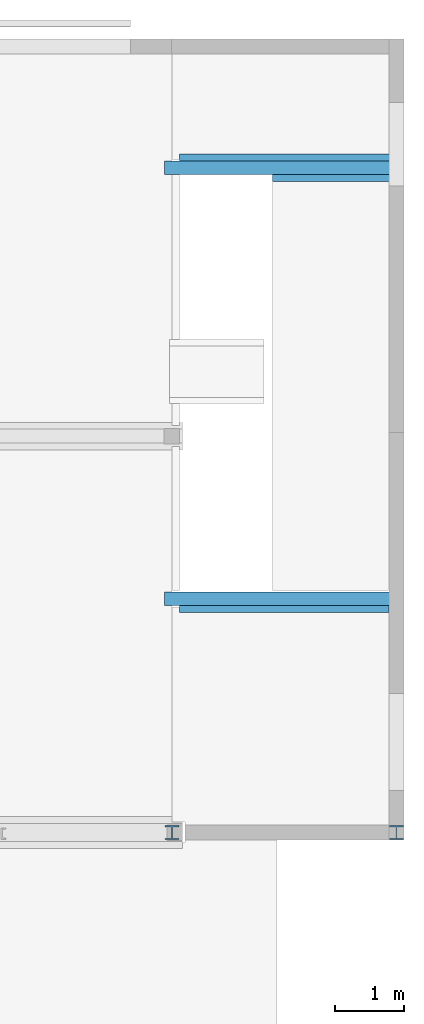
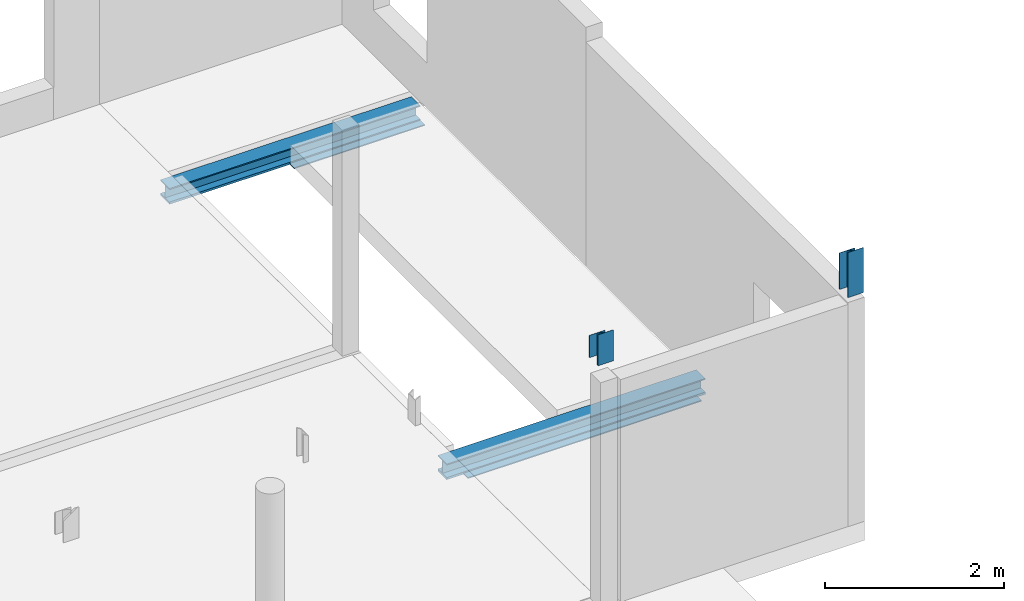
# One storey, part 6 of 6: 2 beams, 2 columns.
"""IFC2X3 building model written with IfcOpenShell, lengths in millimetres."""

from ifc_helpers import new_model, entity, si_unit, converted_unit, derived_unit, direction, frame, origin, place, context, subcontext, project, spatial, faceted_brep, source, transform, mapped, material, type_object, type_shapes, element, save


model = new_model("IFC2X3")

# Units and contexts
model_context = context("Model", 3, precision=0.01, world=origin(), true_north=direction((6.123031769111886e-17, 1.0)))
body_context = subcontext(model_context, "Body", "Model", "MODEL_VIEW")
ifc_project = project(units=[si_unit("LENGTHUNIT", "METRE", prefix="MILLI"), si_unit("AREAUNIT", "SQUARE_METRE", prefix="MILLI"), si_unit("VOLUMEUNIT", "CUBIC_METRE"), converted_unit("PLANEANGLEUNIT", "DEGREE", entity("IfcPlaneAngleMeasure", 0.017453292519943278), si_unit("PLANEANGLEUNIT", "RADIAN"), dimensions=[0, 0, 0, 0, 0, 0, 0]), si_unit("MASSUNIT", "GRAM", prefix="KILO"), derived_unit("MASSDENSITYUNIT", [(si_unit("MASSUNIT", "GRAM", prefix="KILO"), 1), (si_unit("LENGTHUNIT", "METRE"), -3)]), derived_unit("IONCONCENTRATIONUNIT", [(si_unit("MASSUNIT", "GRAM", prefix="KILO"), 1), (si_unit("LENGTHUNIT", "METRE"), -3)]), derived_unit("MOMENTOFINERTIAUNIT", [(si_unit("LENGTHUNIT", "METRE"), 4)]), si_unit("TIMEUNIT", "SECOND"), si_unit("FREQUENCYUNIT", "HERTZ"), si_unit("THERMODYNAMICTEMPERATUREUNIT", "DEGREE_CELSIUS"), derived_unit("THERMALTRANSMITTANCEUNIT", [(si_unit("MASSUNIT", "GRAM", prefix="KILO"), 1), (si_unit("THERMODYNAMICTEMPERATUREUNIT", "KELVIN"), -1), (si_unit("TIMEUNIT", "SECOND"), -3)]), derived_unit("THERMALCONDUCTANCEUNIT", [(si_unit("MASSUNIT", "GRAM", prefix="KILO"), 1), (si_unit("THERMODYNAMICTEMPERATUREUNIT", "KELVIN"), -1), (si_unit("TIMEUNIT", "SECOND"), -3), (si_unit("LENGTHUNIT", "METRE"), 1)]), derived_unit("VOLUMETRICFLOWRATEUNIT", [(si_unit("LENGTHUNIT", "METRE", prefix="DECI"), 3), (si_unit("TIMEUNIT", "SECOND"), -1)]), derived_unit("MASSFLOWRATEUNIT", [(si_unit("MASSUNIT", "GRAM", prefix="KILO"), 1), (si_unit("TIMEUNIT", "SECOND"), -1)]), derived_unit("ROTATIONALFREQUENCYUNIT", [(si_unit("TIMEUNIT", "SECOND"), -1)]), si_unit("ELECTRICCURRENTUNIT", "AMPERE"), si_unit("ELECTRICVOLTAGEUNIT", "VOLT"), si_unit("POWERUNIT", "WATT"), si_unit("FORCEUNIT", "NEWTON", prefix="KILO"), si_unit("ILLUMINANCEUNIT", "LUX"), si_unit("LUMINOUSFLUXUNIT", "LUMEN"), si_unit("LUMINOUSINTENSITYUNIT", "CANDELA"), si_unit("ENERGYUNIT", "JOULE"), derived_unit("USERDEFINED", [(si_unit("MASSUNIT", "GRAM", prefix="KILO"), -1), (si_unit("LENGTHUNIT", "METRE"), -2), (si_unit("TIMEUNIT", "SECOND"), 3), (si_unit("LUMINOUSFLUXUNIT", "LUMEN"), 1)]), derived_unit("USERDEFINED", [(si_unit("MASSUNIT", "GRAM", prefix="KILO"), 1), (si_unit("TIMEUNIT", "SECOND"), -3), (si_unit("LENGTHUNIT", "METRE"), 3), (si_unit("ELECTRICCURRENTUNIT", "AMPERE"), -2)]), derived_unit("SOUNDPOWERUNIT", [(si_unit("MASSUNIT", "GRAM", prefix="KILO"), 1), (si_unit("TIMEUNIT", "SECOND"), -3), (si_unit("LENGTHUNIT", "METRE"), 2)]), derived_unit("SOUNDPRESSUREUNIT", [(si_unit("MASSUNIT", "GRAM", prefix="KILO"), 1), (si_unit("LENGTHUNIT", "METRE"), -1), (si_unit("TIMEUNIT", "SECOND"), -2)]), derived_unit("LINEARVELOCITYUNIT", [(si_unit("LENGTHUNIT", "METRE"), 1), (si_unit("TIMEUNIT", "SECOND"), -1)]), si_unit("PRESSUREUNIT", "PASCAL"), derived_unit("USERDEFINED", [(si_unit("MASSUNIT", "GRAM", prefix="KILO"), 1), (si_unit("LENGTHUNIT", "METRE"), -2), (si_unit("TIMEUNIT", "SECOND"), -2)]), derived_unit("LINEARFORCEUNIT", [(si_unit("MASSUNIT", "GRAM", prefix="KILO"), 1), (si_unit("TIMEUNIT", "SECOND"), -2)]), derived_unit("PLANARFORCEUNIT", [(si_unit("MASSUNIT", "GRAM", prefix="KILO"), 1), (si_unit("LENGTHUNIT", "METRE"), -1), (si_unit("TIMEUNIT", "SECOND"), -2)]), derived_unit("SPECIFICHEATCAPACITYUNIT", [(si_unit("THERMODYNAMICTEMPERATUREUNIT", "KELVIN"), -1), (si_unit("LENGTHUNIT", "METRE"), 2), (si_unit("TIMEUNIT", "SECOND"), -2)]), derived_unit("HEATFLUXDENSITYUNIT", [(si_unit("MASSUNIT", "GRAM", prefix="KILO"), 1), (si_unit("TIMEUNIT", "SECOND"), -3)]), derived_unit("HEATINGVALUEUNIT", [(si_unit("LENGTHUNIT", "METRE"), 2), (si_unit("TIMEUNIT", "SECOND"), -2)]), derived_unit("VAPORPERMEABILITYUNIT", [(si_unit("LENGTHUNIT", "METRE"), -1), (si_unit("TIMEUNIT", "SECOND"), 1)]), derived_unit("DYNAMICVISCOSITYUNIT", [(si_unit("MASSUNIT", "GRAM", prefix="KILO"), 1), (si_unit("TIMEUNIT", "SECOND"), -1), (si_unit("LENGTHUNIT", "METRE"), -1)]), derived_unit("THERMALEXPANSIONCOEFFICIENTUNIT", [(si_unit("THERMODYNAMICTEMPERATUREUNIT", "KELVIN"), -1)]), derived_unit("MODULUSOFELASTICITYUNIT", [(si_unit("MASSUNIT", "GRAM", prefix="KILO"), 1), (si_unit("LENGTHUNIT", "METRE"), -1), (si_unit("TIMEUNIT", "SECOND"), -2)]), derived_unit("ISOTHERMALMOISTURECAPACITYUNIT", [(si_unit("MASSUNIT", "GRAM", prefix="KILO"), -1), (si_unit("LENGTHUNIT", "METRE"), 3)]), derived_unit("MOISTUREDIFFUSIVITYUNIT", [(si_unit("TIMEUNIT", "SECOND"), -1), (si_unit("LENGTHUNIT", "METRE"), 2)]), derived_unit("MASSPERLENGTHUNIT", [(si_unit("MASSUNIT", "GRAM", prefix="KILO"), 1), (si_unit("LENGTHUNIT", "METRE"), -1)]), derived_unit("THERMALRESISTANCEUNIT", [(si_unit("MASSUNIT", "GRAM", prefix="KILO"), -1), (si_unit("TIMEUNIT", "SECOND"), 3), (si_unit("THERMODYNAMICTEMPERATUREUNIT", "KELVIN"), 1)]), derived_unit("ACCELERATIONUNIT", [(si_unit("LENGTHUNIT", "METRE"), 1), (si_unit("TIMEUNIT", "SECOND"), -2)]), derived_unit("ANGULARVELOCITYUNIT", [(si_unit("TIMEUNIT", "SECOND"), -1), (si_unit("PLANEANGLEUNIT", "RADIAN"), 1)]), derived_unit("LINEARSTIFFNESSUNIT", [(si_unit("MASSUNIT", "GRAM", prefix="KILO"), 1), (si_unit("TIMEUNIT", "SECOND"), -2)]), derived_unit("WARPINGCONSTANTUNIT", [(si_unit("LENGTHUNIT", "METRE"), 6)]), derived_unit("LINEARMOMENTUNIT", [(si_unit("MASSUNIT", "GRAM", prefix="KILO"), 1), (si_unit("LENGTHUNIT", "METRE"), 1), (si_unit("TIMEUNIT", "SECOND"), -2)]), derived_unit("TORQUEUNIT", [(si_unit("MASSUNIT", "GRAM", prefix="KILO"), 1), (si_unit("LENGTHUNIT", "METRE"), 2), (si_unit("TIMEUNIT", "SECOND"), -2)])], contexts=[model_context])

# Site, building, storey
site_placement = place(None, origin())
site = spatial("IfcSite", under=ifc_project, at=site_placement, Name="Default", CompositionType="ELEMENT")
building_placement = place(site_placement, origin())
building = spatial("IfcBuilding", under=site, at=building_placement, CompositionType="ELEMENT")
storey_placement = place(building_placement, frame((0.0, 0.0, 7530.0)))
storey = spatial("IfcBuildingStorey", under=building, at=storey_placement, Name="V2 2e verd. (bk ruwe vloer)", CompositionType="ELEMENT", Elevation=7529.999999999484)

# Columns
ifc_material_1 = material(Name="Metal - Steel - S235 JRG2 (standaard)")
column_type_1 = type_object("IfcColumnType", Name="btk_staal - HE(a-b-m):HEB200", PredefinedType="COLUMN", material=ifc_material_1)
shared_shape_1 = source(origin(), body_context, "Body", "Brep", [
    faceted_brep([(30853.72719495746, 31837.57320506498, 10650.0), (30853.72719495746, 31852.573205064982, 10650.0), (30853.72719495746, 31852.573205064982, 11257.654781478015), (30853.72719495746, 31837.573205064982, 11267.166658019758), (30653.72719495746, 31837.573205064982, 10650.0), (30653.72719495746, 31837.573205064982, 11267.166658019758), (30653.72719495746, 31852.57320506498, 10650.0), (30653.72719495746, 31852.573205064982, 11257.654781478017), (30749.22719495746, 32022.57320506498, 10650.0), (30749.22719495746, 31852.573205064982, 10650.0), (30749.22719495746, 31852.573205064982, 11257.654781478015), (30749.22719495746, 32022.57320506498, 11149.853514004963), (30653.72719495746, 32022.57320506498, 10650.0), (30653.72719495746, 32022.57320506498, 11149.853514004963), (30653.72719495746, 32037.573205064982, 10650.0), (30653.72719495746, 32037.573205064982, 11140.341637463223), (30853.72719495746, 32037.573205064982, 10650.0), (30853.72719495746, 32037.573205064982, 11140.341637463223), (30853.72719495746, 32022.57320506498, 10650.0), (30758.22719495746, 32022.57320506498, 10650.0), (30758.22719495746, 31852.57320506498, 10650.0), (30853.72719495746, 32022.57320506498, 11149.853514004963), (30758.22719495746, 32022.57320506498, 11149.853514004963), (30758.22719495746, 31852.573205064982, 11257.654781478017)], [[[0, 1, 2, 3]], [[4, 0, 3, 5]], [[6, 4, 5, 7]], [[8, 9, 10, 11]], [[12, 8, 11, 13]], [[14, 12, 13, 15]], [[16, 14, 15, 17]], [[12, 14, 16, 18, 19, 20, 1, 0, 4, 6, 9, 8]], [[18, 16, 17, 21]], [[19, 18, 21, 22]], [[20, 19, 22, 23]], [[1, 20, 23, 2]], [[9, 6, 7, 10]], [[3, 2, 23, 22, 21, 17, 15, 13, 11, 10, 7, 5]]]),
])
type_shapes(column_type_1, [shared_shape_1])
column_1_placement = place(storey_placement, frame((0.0, 0.0, -7530.0)))
element("IfcColumn", 1, at=column_1_placement, inside=storey, type_object=column_type_1, material=ifc_material_1, Name="btk_staal - HE(a-b-m):HEB200", ObjectType="btk_staal - HE(a-b-m):HEB200", context=body_context, shape_type="MappedRepresentation", body=[
    mapped(shared_shape_1, transform((0.0, 0.0, 0.0), scale=1.0)),
])
column_type_2 = type_object("IfcColumnType", Name="btk_staal - HE(a-b-m):HEB200", PredefinedType="COLUMN", material=ifc_material_1)
shared_shape_2 = source(origin(), body_context, "Body", "Brep", [
    faceted_brep([(27624.97952010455, 31837.57320506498, 10850.0), (27624.97952010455, 31852.573205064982, 10850.0), (27624.97952010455, 31852.573205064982, 11262.460047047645), (27624.97952010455, 31837.573205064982, 11271.97184697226), (27424.979520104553, 31837.573205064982, 10850.0), (27424.979520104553, 31837.573205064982, 11271.97184697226), (27424.979520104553, 31852.57320506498, 10850.0), (27424.979520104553, 31852.573205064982, 11262.460047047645), (27520.479520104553, 32022.57320506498, 10850.0), (27520.479520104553, 31852.573205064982, 10850.0), (27520.479520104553, 31852.573205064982, 11262.460047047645), (27520.479520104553, 32022.57320506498, 11154.659647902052), (27424.979520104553, 32022.57320506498, 10850.0), (27424.979520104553, 32022.57320506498, 11154.659647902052), (27424.979520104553, 32037.573205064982, 10850.0), (27424.979520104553, 32037.573205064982, 11145.147847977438), (27624.97952010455, 32037.573205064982, 10850.0), (27624.97952010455, 32037.573205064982, 11145.147847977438), (27624.97952010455, 32022.57320506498, 10850.0), (27529.47952010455, 32022.57320506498, 10850.0), (27529.47952010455, 31852.57320506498, 10850.0), (27624.97952010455, 32022.57320506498, 11154.659647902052), (27529.47952010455, 32022.57320506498, 11154.659647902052), (27529.47952010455, 31852.573205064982, 11262.460047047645)], [[[0, 1, 2, 3]], [[4, 0, 3, 5]], [[6, 4, 5, 7]], [[8, 9, 10, 11]], [[12, 8, 11, 13]], [[14, 12, 13, 15]], [[16, 14, 15, 17]], [[12, 14, 16, 18, 19, 20, 1, 0, 4, 6, 9, 8]], [[18, 16, 17, 21]], [[19, 18, 21, 22]], [[20, 19, 22, 23]], [[1, 20, 23, 2]], [[9, 6, 7, 10]], [[3, 2, 23, 22, 21, 17, 15, 13, 11, 10, 7, 5]]]),
])
type_shapes(column_type_2, [shared_shape_2])
column_2_placement = place(storey_placement, frame((0.0, 0.0, -7530.0)))
element("IfcColumn", 2, at=column_2_placement, inside=storey, type_object=column_type_2, material=ifc_material_1, Name="btk_staal - HE(a-b-m):HEB200", ObjectType="btk_staal - HE(a-b-m):HEB200", context=body_context, shape_type="MappedRepresentation", body=[
    mapped(shared_shape_2, transform((0.0, 0.0, 0.0), scale=1.0)),
])

# Beams
ifc_material_2 = material(Name="Metal - Steel - S355 JR (standaard-geintegreerde liggers)")
beam_type_1 = type_object("IfcBeamType", Name="btl_staal - SFB:SFB HEB200+400x15 (S355)", PredefinedType="BEAM", material=ifc_material_2)
shared_shape_3 = source(origin(), body_context, "Body", "Brep", [
    faceted_brep([(0.0, 300.0, -200.0), (0.0, 300.0, -215.0), (0.0, 100.0, -215.0), (0.0, 100.0, -200.0), (3338.9976748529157, 300.0, -215.0), (3338.9976748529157, 300.0, -200.0), (3338.9976748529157, 100.0, -200.0), (3338.9976748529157, 100.0, -215.0), (214.0, 100.0, -200.0), (214.0, 0.0, -200.0), (3231.9976748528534, 0.0, -200.0), (3231.9976748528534, 100.0, -200.0), (3231.9976748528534, 100.0, -215.0), (3231.9976748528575, 0.0, -215.0), (214.0, 0.0, -215.0), (214.0, 100.0, -215.0)], [[[0, 1, 2, 3]], [[4, 5, 6, 7]], [[0, 3, 8, 9, 10, 11, 6, 5]], [[2, 1, 4, 7, 12, 13, 14, 15]], [[9, 14, 13, 10]], [[1, 0, 5, 4]], [[8, 15, 14, 9]], [[15, 8, 3, 2]], [[12, 11, 10, 13]], [[11, 12, 7, 6]]]),
    faceted_brep([(0.0, 300.0, 0.0), (0.0, 300.0, -15.0), (0.0, 204.50000000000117, -15.0), (0.0, 204.50000000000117, -185.0), (0.0, 300.0, -185.0), (0.0, 300.0, -200.0), (0.0, 100.0, -200.0), (0.0, 100.0, -185.0), (0.0, 195.5000000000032, -185.0), (0.0, 195.5000000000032, -15.0), (0.0, 100.0, -15.0), (0.0, 100.0, 0.0), (3338.9976748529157, 300.0, 0.0), (3338.9976748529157, 100.0, 0.0), (3338.9976748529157, 100.0, -15.0), (3338.9976748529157, 195.49999999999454, -15.0), (3338.9976748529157, 195.49999999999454, -185.0), (3338.9976748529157, 100.0, -185.0), (3338.9976748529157, 100.0, -200.0), (3338.9976748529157, 300.0, -200.0), (3338.9976748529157, 300.0, -185.0), (3338.9976748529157, 204.4999999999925, -185.0), (3338.9976748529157, 204.4999999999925, -15.0), (3338.9976748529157, 300.0, -15.0)], [[[0, 1, 2, 3, 4, 5, 6, 7, 8, 9, 10, 11]], [[12, 13, 14, 15, 16, 17, 18, 19, 20, 21, 22, 23]], [[1, 0, 12, 23]], [[2, 1, 23, 22]], [[3, 2, 22, 21]], [[4, 3, 21, 20]], [[5, 4, 20, 19]], [[6, 5, 19, 18]], [[7, 6, 18, 17]], [[8, 7, 17, 16]], [[9, 8, 16, 15]], [[10, 9, 15, 14]], [[11, 10, 14, 13]], [[0, 11, 13, 12]]]),
])
type_shapes(beam_type_1, [shared_shape_3])
beam_1_placement = place(storey_placement, frame((27417.979520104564, 35104.4758807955, -60.0)))
element("IfcBeam", 3, at=beam_1_placement, inside=storey, type_object=beam_type_1, material=ifc_material_2, Name="btl_staal - SFB:SFB HEB200+400x15 (S355)", ObjectType="btl_staal - SFB:SFB HEB200+400x15 (S355)", context=body_context, shape_type="MappedRepresentation", body=[
    mapped(shared_shape_3, transform((0.0, 0.0, 0.0), scale=1.0)),
])
beam_type_2 = type_object("IfcBeamType", Name="btl_staal - SFB:SFB HEB200+400x15 (S355)", PredefinedType="BEAM", material=ifc_material_2)
shared_shape_4 = source(origin(), body_context, "Body", "Brep", [
    faceted_brep([(0.0, 100.0, 215.0), (0.0, 300.0, 215.0), (0.0, 300.0, 200.0), (0.0, 204.50000000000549, 200.0), (0.0, 204.50000000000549, 30.0), (0.0, 300.0, 30.0), (0.0, 300.0, 15.0), (0.0, 100.0, 15.0), (0.0, 100.0, 30.0), (0.0, 195.50000000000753, 30.0), (0.0, 195.50000000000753, 200.0), (0.0, 100.0, 200.0), (3238.9976748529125, 100.0, 215.0), (3238.9976748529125, 100.0, 200.0), (3238.9976748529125, 195.50000000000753, 200.0), (3238.9976748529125, 195.50000000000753, 30.0), (3238.9976748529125, 100.0, 30.0), (3238.9976748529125, 100.0, 15.0), (3238.9976748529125, 300.0, 15.0), (3238.9976748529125, 300.0, 30.0), (3238.9976748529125, 204.50000000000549, 30.0), (3238.9976748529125, 204.50000000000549, 200.0), (3238.9976748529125, 300.0, 200.0), (3238.9976748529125, 300.0, 215.0)], [[[0, 1, 2, 3, 4, 5, 6, 7, 8, 9, 10, 11]], [[12, 13, 14, 15, 16, 17, 18, 19, 20, 21, 22, 23]], [[11, 13, 12, 0]], [[10, 14, 13, 11]], [[9, 15, 14, 10]], [[8, 16, 15, 9]], [[7, 17, 16, 8]], [[6, 18, 17, 7]], [[5, 19, 18, 6]], [[4, 20, 19, 5]], [[3, 21, 20, 4]], [[2, 22, 21, 3]], [[1, 23, 22, 2]], [[0, 12, 23, 1]]]),
    faceted_brep([(0.0, 100.0, 0.0), (0.0, 100.0, 15.0), (0.0, 300.0, 15.0), (0.0, 300.0, 0.0), (3238.9976748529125, 400.0, 0.0), (3238.9976748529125, 400.0, 15.0), (3238.9976748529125, 0.0, 15.0), (3238.9976748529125, 0.0, 0.0), (214.0, 400.0, 15.0), (214.0, 300.0, 15.0), (1550.539889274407, 100.0, 15.0), (1550.539889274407, 0.0, 15.0), (1550.539889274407, 0.0, 0.0), (1550.539889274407, 100.0, 0.0), (214.0, 300.0, 0.0), (214.0, 400.0, 0.0)], [[[0, 1, 2, 3]], [[4, 5, 6, 7]], [[6, 5, 8, 9, 2, 1, 10, 11]], [[7, 6, 11, 12]], [[4, 7, 12, 13, 0, 3, 14, 15]], [[5, 4, 15, 8]], [[11, 10, 13, 12]], [[1, 0, 13, 10]], [[14, 9, 8, 15]], [[9, 14, 3, 2]]]),
])
type_shapes(beam_type_2, [shared_shape_4])
beam_2_placement = place(storey_placement, frame((27417.979520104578, 41307.317059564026, -275.0)))
element("IfcBeam", 4, at=beam_2_placement, inside=storey, type_object=beam_type_2, material=ifc_material_2, Name="btl_staal - SFB:SFB HEB200+400x15 (S355)", ObjectType="btl_staal - SFB:SFB HEB200+400x15 (S355)", context=body_context, shape_type="MappedRepresentation", body=[
    mapped(shared_shape_4, transform((0.0, 0.0, 0.0), scale=1.0)),
])

save(model, "model.ifc")
